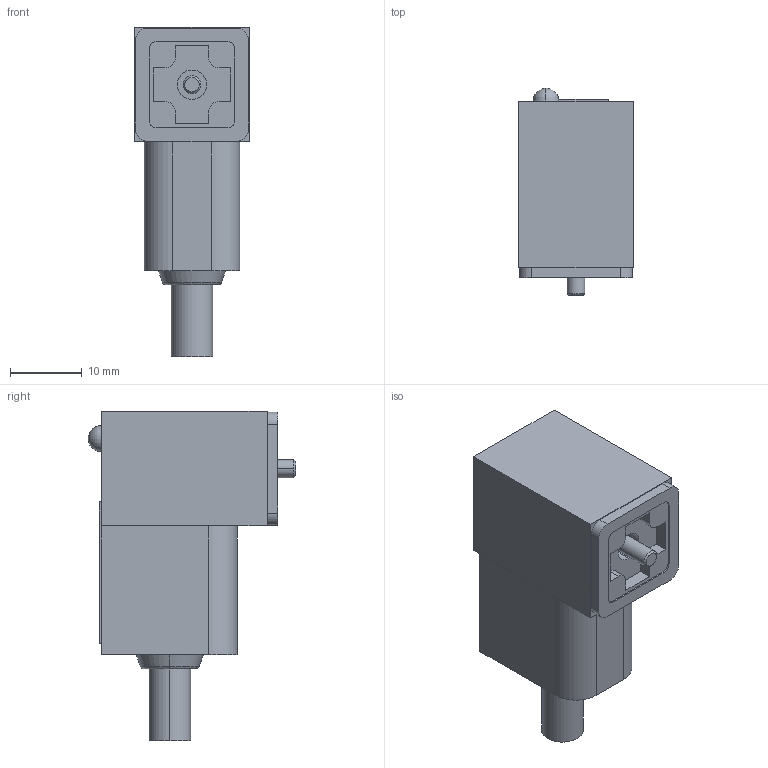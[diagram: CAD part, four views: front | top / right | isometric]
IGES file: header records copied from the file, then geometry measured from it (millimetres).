
Start section:  PTC IGES file: 1834484206\1834484206.iges
Global section: file name: 1834484206\1834484206.iges; native system: Creo Parametric by PTC Inc.; preprocessor: 2023092; author: THD3HC; organization: Unknown; date: 20240509.155633; units: millimetre
Bounding box: 16 x 29 x 46 mm (x, y, z)
Surface area: 3648.3 mm2 (no closed solid volume)
Topology: 0 solids, 0 shells, 78 faces, 384 edges, 380 vertices
Faces by surface type: bspline 44, revolution 34
